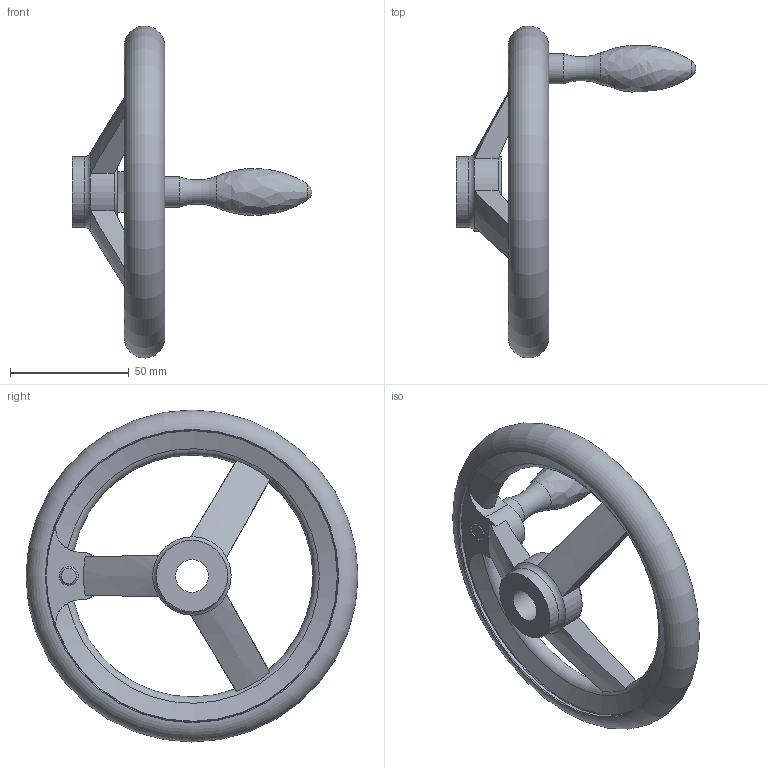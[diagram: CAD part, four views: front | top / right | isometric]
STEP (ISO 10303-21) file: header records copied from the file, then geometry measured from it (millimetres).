
FILE_DESCRIPTION( ( 'STEP AP203' ), '1' );
FILE_NAME( 'C:/Temp/Ganter_Step_05_03_2020/data/1_3/din_950/din_950_b/din_950_b_f/Handwheel DIN 950-GG-140-B14-F.stp', '2020-03-05T10:30:07', ( 'License CC BY-ND 4.0' ), ( 'CADENAS' ), ' ', 'PARTsolutions', ' ' );
FILE_SCHEMA( ( 'CONFIG_CONTROL_DESIGN' ) );
Length unit declared in the file: millimetre
Products named in the file (1): _Handwheel DIN 950-GG-140-B14-F
Bounding box: 101 x 139.99 x 139.99 mm (x, y, z)
Volume: 121938.4 mm3; surface area: 34237.3 mm2
Topology: 1 solids, 1 shells, 44 faces, 123 edges, 78 vertices
Faces by surface type: cylinder 13, plane 11, torus 11, cone 7, bspline 1, sphere 1
Full cylindrical faces by diameter (mm): 8 x1, 12.8 x1, 14 x1, 30 x2, 123 x2
Entity records: 1695 total; most frequent: CARTESIAN_POINT 651, DIRECTION 198, ORIENTED_EDGE 196, EDGE_CURVE 98, AXIS2_PLACEMENT_3D 93, VERTEX_POINT 74, EDGE_LOOP 68, FACE_OUTER_BOUND 60
